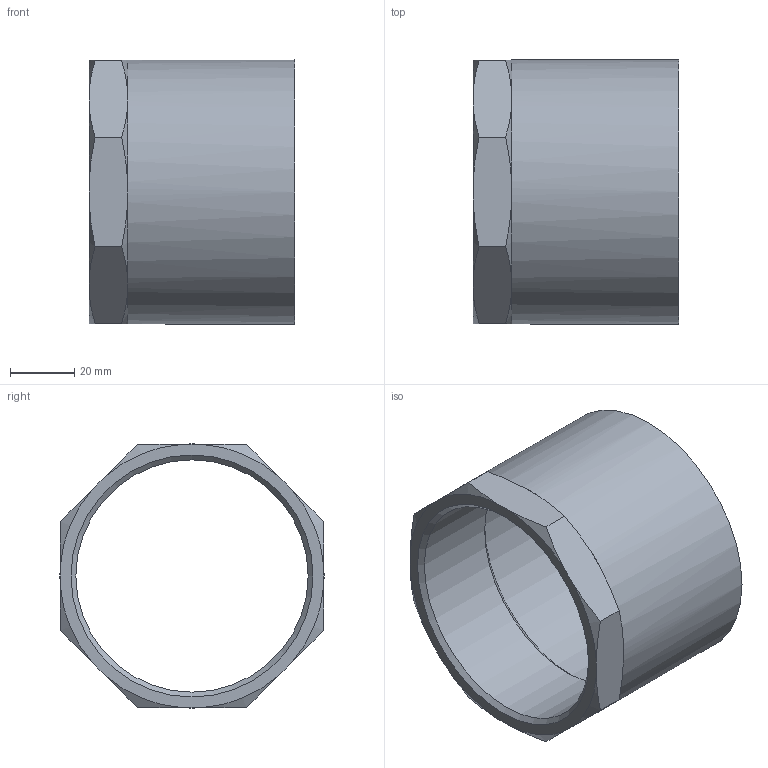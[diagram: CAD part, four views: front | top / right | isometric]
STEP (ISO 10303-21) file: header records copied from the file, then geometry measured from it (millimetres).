
FILE_DESCRIPTION((''),'2;1');
FILE_NAME('\\lg50001\SANHA_Legnica\Engineering\Public\RYSUNKI\SANHA POLSKA\4270G\inventor\14270_76-212(2).stp','2014-08-25T12:34:04',('gomulka'),(''),'Autodesk Inventor 2009','Autodesk Inventor 2009','');
FILE_SCHEMA(('AUTOMOTIVE_DESIGN { 1 0 10303 214 1 1 1 1 }'));
Length unit declared in the file: millimetre
Products named in the file (1): 14270_76-212(2)
Bounding box: 64 x 82.1 x 82.1 mm (x, y, z)
Volume: 62817.9 mm3; surface area: 33830.1 mm2
Topology: 1 solids, 1 shells, 39 faces, 108 edges, 71 vertices
Faces by surface type: plane 18, cone 18, cylinder 3
Full cylindrical faces by diameter (mm): 72.226 x1, 76.22 x1, 82.1 x1
Entity records: 1212 total; most frequent: CARTESIAN_POINT 276, ORIENTED_EDGE 204, DIRECTION 180, EDGE_CURVE 102, AXIS2_PLACEMENT_3D 70, VERTEX_POINT 70, EDGE_LOOP 46, VECTOR 40
